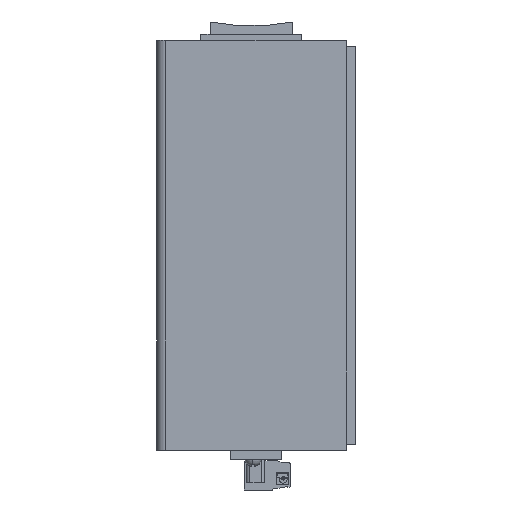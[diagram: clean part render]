
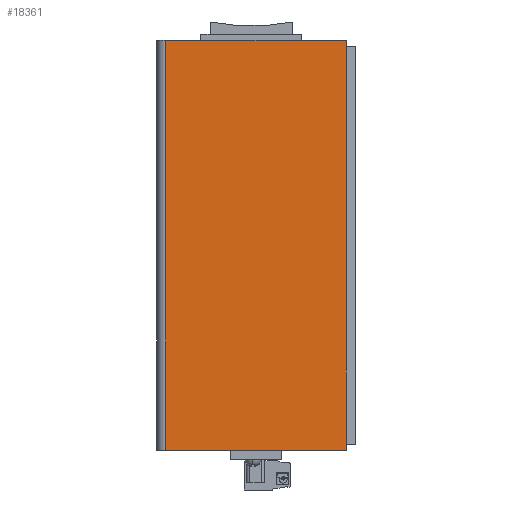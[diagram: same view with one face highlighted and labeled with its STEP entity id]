
A CAD part, left-side view. The second image highlights one B-rep face of the part: STEP entity #18361.
In plain terms, the highlighted planar face has unit normal (-1, 0, 0).
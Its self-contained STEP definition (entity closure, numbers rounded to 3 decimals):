
#45=DIRECTION('',(0.,0.,-1.));
#46=VECTOR('',#45,134.);
#47=CARTESIAN_POINT('',(-45.,62.,67.));
#48=LINE('',#47,#46);
#53=DIRECTION('',(0.,0.,-1.));
#54=VECTOR('',#53,2.);
#55=CARTESIAN_POINT('',(-45.,3.,-65.));
#56=LINE('',#55,#54);
#57=DIRECTION('',(0.,0.,1.));
#58=VECTOR('',#57,130.);
#59=CARTESIAN_POINT('',(-45.,3.,-65.));
#60=LINE('',#59,#58);
#137=DIRECTION('',(0.,0.,1.));
#138=VECTOR('',#137,2.);
#139=CARTESIAN_POINT('',(-45.,3.,65.));
#140=LINE('',#139,#138);
#154=DIRECTION('',(0.,-1.,0.));
#155=VECTOR('',#154,59.);
#156=CARTESIAN_POINT('',(-45.,62.,67.));
#157=LINE('',#156,#155);
#5472=DIRECTION('',(0.,1.,0.));
#5473=VECTOR('',#5472,59.);
#5474=CARTESIAN_POINT('',(-45.,3.,-67.));
#5475=LINE('',#5474,#5473);
#14229=CARTESIAN_POINT('',(-45.,3.,67.));
#14231=VERTEX_POINT('',#14229);
#14238=CARTESIAN_POINT('',(-45.,62.,67.));
#14240=VERTEX_POINT('',#14238);
#15305=CARTESIAN_POINT('',(-45.,3.,65.));
#15307=VERTEX_POINT('',#15305);
#15310=CARTESIAN_POINT('',(-45.,3.,-67.));
#15312=VERTEX_POINT('',#15310);
#15313=CARTESIAN_POINT('',(-45.,62.,-67.));
#15315=VERTEX_POINT('',#15313);
#16170=CARTESIAN_POINT('',(-45.,3.,-65.));
#16172=VERTEX_POINT('',#16170);
#18344=CARTESIAN_POINT('',(-45.,65.,-65.));
#18345=DIRECTION('',(-1.,0.,0.));
#18346=DIRECTION('',(0.,-1.,0.));
#18347=AXIS2_PLACEMENT_3D('',#18344,#18345,#18346);
#18348=PLANE('',#18347);
#18350=ORIENTED_EDGE('',*,*,#18349,.F.);
#18351=ORIENTED_EDGE('',*,*,#18275,.T.);
#18353=ORIENTED_EDGE('',*,*,#18352,.T.);
#18354=ORIENTED_EDGE('',*,*,#18334,.F.);
#18356=ORIENTED_EDGE('',*,*,#18355,.T.);
#18358=ORIENTED_EDGE('',*,*,#18357,.F.);
#18359=EDGE_LOOP('',(#18350,#18351,#18353,#18354,#18356,#18358));
#18360=FACE_OUTER_BOUND('',#18359,.F.);
#18361=ADVANCED_FACE('',(#18360),#18348,.T.);
#18275=EDGE_CURVE('',#16172,#15312,#56,.T.);
#18334=EDGE_CURVE('',#14240,#15315,#48,.T.);
#18349=EDGE_CURVE('',#16172,#15307,#60,.T.);
#18352=EDGE_CURVE('',#15312,#15315,#5475,.T.);
#18355=EDGE_CURVE('',#14240,#14231,#157,.T.);
#18357=EDGE_CURVE('',#15307,#14231,#140,.T.);
